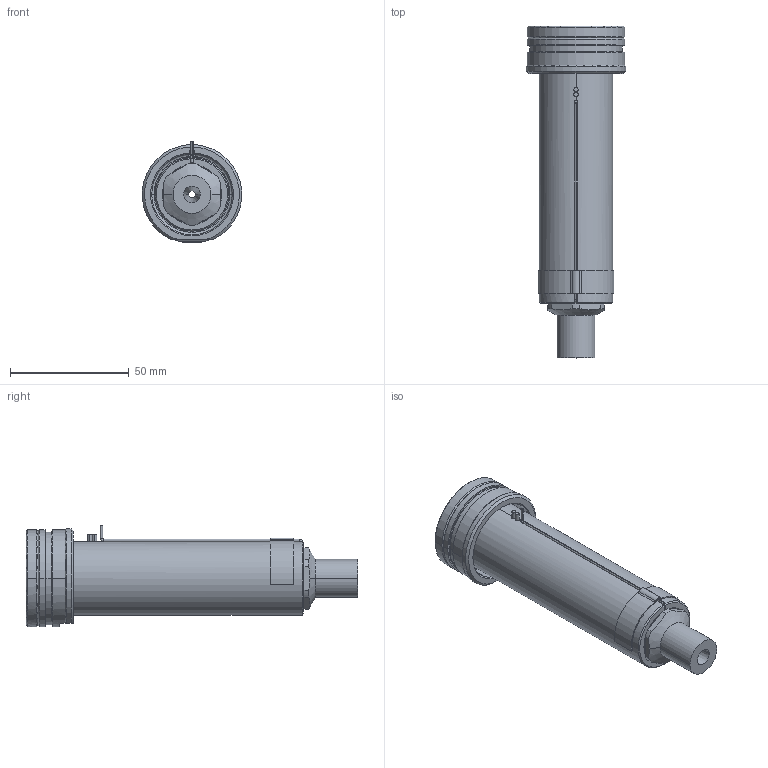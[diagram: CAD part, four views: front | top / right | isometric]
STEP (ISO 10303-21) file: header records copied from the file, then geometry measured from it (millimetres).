
FILE_DESCRIPTION((''),'2;1');
FILE_NAME('EO12_SG_ESG_110_SW','2024-02-19T12:30:47',('sundharh'),(''),'CREO PARAMETRIC BY PTC INC, 2023154','CREO PARAMETRIC BY PTC INC, 2023154','');
FILE_SCHEMA(('CONFIG_CONTROL_DESIGN'));
Length unit declared in the file: millimetre
Products named in the file (1): EO12_SG_ESG_110_SW
Bounding box: 41.85 x 140 x 43 mm (x, y, z)
Volume: 89304.5 mm3; surface area: 24945 mm2
Topology: 2 solids, 3 shells, 177 faces, 448 edges, 273 vertices
Faces by surface type: cylinder 65, plane 46, cone 33, torus 27, sphere 3, bspline 3
Entity records: 6032 total; most frequent: CARTESIAN_POINT 1680, DIRECTION 956, ORIENTED_EDGE 888, EDGE_CURVE 444, AXIS2_PLACEMENT_3D 399, VERTEX_POINT 273, CIRCLE 225, EDGE_LOOP 193
